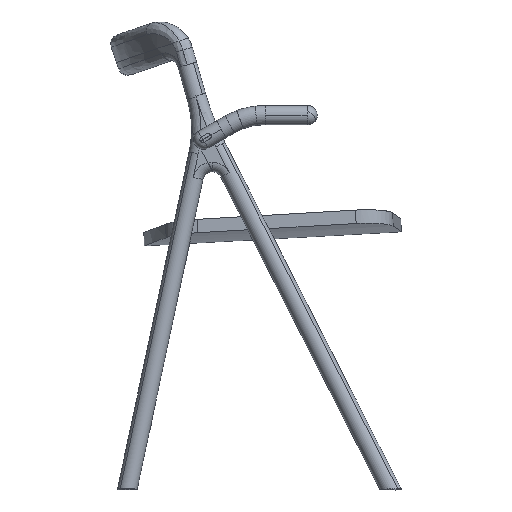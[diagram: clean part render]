
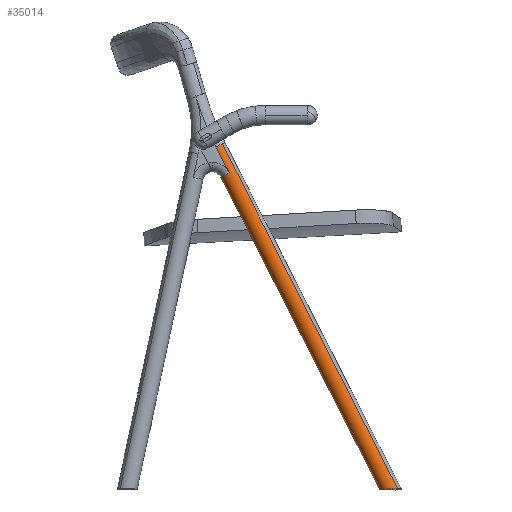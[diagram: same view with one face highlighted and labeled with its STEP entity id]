
A CAD part, left-side view. The second image highlights one B-rep face of the part: STEP entity #35014.
In plain terms, the highlighted cylindrical face has radius 16 mm (diameter 32 mm), a partial arc.
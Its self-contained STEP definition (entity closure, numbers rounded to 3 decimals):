
#3 = ORIENTED_EDGE ( 'NONE', *, *, #27408, .T. ) ;
#238 = CARTESIAN_POINT ( 'NONE',  ( 35163.519, 90911.886, -1926.949 ) ) ;
#442 = CARTESIAN_POINT ( 'NONE',  ( 35163.963, 90913.556, -1927.036 ) ) ;
#653 = CARTESIAN_POINT ( 'NONE',  ( 35166.353, 90897.199, -1926.192 ) ) ;
#785 = CARTESIAN_POINT ( 'NONE',  ( 35172.512, 91176.039, -1401.323 ) ) ;
#845 = CARTESIAN_POINT ( 'NONE',  ( 35190.897, 90919.882, -1927.413 ) ) ;
#985 = DIRECTION ( 'NONE',  ( 0.016, 0.454, 0.891 ) ) ;
#1143 = CARTESIAN_POINT ( 'NONE',  ( 35166.205, 90995.44, -1755.984 ) ) ;
#1336 = CARTESIAN_POINT ( 'NONE',  ( 35186.73, 91124.731, -1500.985 ) ) ;
#1380 = EDGE_LOOP ( 'NONE', ( #4444, #39783, #33194, #9488, #38366, #33450, #12090, #7397, #36415, #4933, #3, #16222 ) ) ;
#1541 = EDGE_CURVE ( 'NONE', #35624, #39562, #26585, .T. ) ;
#2729 = CARTESIAN_POINT ( 'NONE',  ( 35198.388, 91134.41, -1506.122 ) ) ;
#2740 = DIRECTION ( 'NONE',  ( 0.999, -0.035, 0. ) ) ;
#3344 = CARTESIAN_POINT ( 'NONE',  ( 35185.716, 91095.693, -1558.01 ) ) ;
#3391 = CARTESIAN_POINT ( 'NONE',  ( 35166.143, 90918.145, -1927.278 ) ) ;
#3598 = CARTESIAN_POINT ( 'NONE',  ( 35179.769, 90925.398, -1927.679 ) ) ;
#3722 = CARTESIAN_POINT ( 'NONE',  ( 35193.854, 91004.561, -1761.12 ) ) ;
#3792 = CARTESIAN_POINT ( 'NONE',  ( 35179.769, 90925.398, -1927.679 ) ) ;
#4444 = ORIENTED_EDGE ( 'NONE', *, *, #21074, .F. ) ;
#4933 = ORIENTED_EDGE ( 'NONE', *, *, #37418, .F. ) ;
#5356 = DIRECTION ( 'NONE',  ( -0.729, -0.605, 0.321 ) ) ;
#5542 = CARTESIAN_POINT ( 'NONE',  ( 35182.774, 90925.058, -1927.667 ) ) ;
#5933 = CARTESIAN_POINT ( 'NONE',  ( 35177.604, 91187.589, -1353.398 ) ) ;
#7261 = VERTEX_POINT ( 'NONE', #37432 ) ;
#7397 = ORIENTED_EDGE ( 'NONE', *, *, #15760, .F. ) ;
#8428 = B_SPLINE_CURVE_WITH_KNOTS ( 'NONE', 3,
 ( #40747, #24103, #5542, #21160, #30638, #12076, #40541, #21578 ),
 .UNSPECIFIED., .F., .F.,
 ( 4, 2, 2, 4 ),
 ( 0., 0.36, 0.753, 1. ),
 .UNSPECIFIED. ) ;
#8513 = FACE_OUTER_BOUND ( 'NONE', #1380, .T. ) ;
#8538 = DIRECTION ( 'NONE',  ( 0.016, 0.454, 0.891 ) ) ;
#8728 = CARTESIAN_POINT ( 'NONE',  ( 35189., 91189.728, -1408.587 ) ) ;
#9295 = AXIS2_PLACEMENT_3D ( 'NONE', #23923, #11065, #5356 ) ;
#9488 = ORIENTED_EDGE ( 'NONE', *, *, #36872, .T. ) ;
#10555 = CARTESIAN_POINT ( 'NONE',  ( 35163.109, 90906.745, -1926.681 ) ) ;
#10719 = DIRECTION ( 'NONE',  ( 0.999, -0.035, 0. ) ) ;
#11065 = DIRECTION ( 'NONE',  ( 0.016, 0.454, 0.891 ) ) ;
#11158 = CIRCLE ( 'NONE', #40761, 16. ) ;
#11209 = VERTEX_POINT ( 'NONE', #8728 ) ;
#11297 = LINE ( 'NONE', #14464, #33970 ) ;
#12019 = VERTEX_POINT ( 'NONE', #2729 ) ;
#12076 = CARTESIAN_POINT ( 'NONE',  ( 35189.416, 90921.457, -1927.492 ) ) ;
#12090 = ORIENTED_EDGE ( 'NONE', *, *, #14015, .F. ) ;
#12637 = EDGE_CURVE ( 'NONE', #38677, #31127, #25266, .T. ) ;
#13084 = CARTESIAN_POINT ( 'NONE',  ( 35176.621, 90925.253, -1927.666 ) ) ;
#13297 = CARTESIAN_POINT ( 'NONE',  ( 35168.227, 90920.73, -1927.416 ) ) ;
#13510 = CARTESIAN_POINT ( 'NONE',  ( 35167.42, 90895.946, -1926.129 ) ) ;
#14015 = EDGE_CURVE ( 'NONE', #11209, #33083, #11158, .T. ) ;
#14095 = DIRECTION ( 'NONE',  ( 0.016, 0.454, 0.891 ) ) ;
#14464 = CARTESIAN_POINT ( 'NONE',  ( 35193.854, 91004.561, -1761.12 ) ) ;
#15260 = EDGE_CURVE ( 'NONE', #15929, #31630, #8428, .T. ) ;
#15760 = EDGE_CURVE ( 'NONE', #7261, #11209, #15925, .T. ) ;
#15925 = CIRCLE ( 'NONE', #40841, 16. ) ;
#15929 = VERTEX_POINT ( 'NONE', #3792 ) ;
#16041 = VECTOR ( 'NONE', #39523, 1000. ) ;
#16141 = CARTESIAN_POINT ( 'NONE',  ( 35187.447, 91145.27, -1495.892 ) ) ;
#16222 = ORIENTED_EDGE ( 'NONE', *, *, #1541, .T. ) ;
#16258 = CARTESIAN_POINT ( 'NONE',  ( 35172.121, 90923.67, -1927.575 ) ) ;
#16576 = EDGE_CURVE ( 'NONE', #12019, #7261, #26911, .T. ) ;
#16625 = VECTOR ( 'NONE', #23948, 1000. ) ;
#17189 = AXIS2_PLACEMENT_3D ( 'NONE', #30111, #14095, #26947 ) ;
#18891 = EDGE_CURVE ( 'NONE', #38677, #33083, #40535, .T. ) ;
#19848 = CARTESIAN_POINT ( 'NONE',  ( 35163.092, 90908.481, -1926.771 ) ) ;
#20752 = DIRECTION ( 'NONE',  ( -0.016, -0.454, -0.891 ) ) ;
#21074 = EDGE_CURVE ( 'NONE', #31630, #39562, #11297, .T. ) ;
#21160 = CARTESIAN_POINT ( 'NONE',  ( 35185.768, 90923.991, -1927.617 ) ) ;
#21578 = CARTESIAN_POINT ( 'NONE',  ( 35190.897, 90919.882, -1927.413 ) ) ;
#21871 = AXIS2_PLACEMENT_3D ( 'NONE', #3344, #23369, #10719 ) ;
#21954 = CARTESIAN_POINT ( 'NONE',  ( 35188.502, 91175.48, -1401.323 ) ) ;
#22158 = DIRECTION ( 'NONE',  ( 0.031, 0.89, -0.454 ) ) ;
#23369 = DIRECTION ( 'NONE',  ( -0.016, -0.454, -0.891 ) ) ;
#23923 = CARTESIAN_POINT ( 'NONE',  ( 35182.195, 90994.881, -1755.984 ) ) ;
#23948 = DIRECTION ( 'NONE',  ( 0.016, 0.454, 0.891 ) ) ;
#24103 = CARTESIAN_POINT ( 'NONE',  ( 35181.276, 90925.345, -1927.679 ) ) ;
#24125 = CYLINDRICAL_SURFACE ( 'NONE', #9295, 16. ) ;
#25266 = CIRCLE ( 'NONE', #17189, 16. ) ;
#25944 = CARTESIAN_POINT ( 'NONE',  ( 35165.275, 90916.686, -1927.201 ) ) ;
#26365 = CARTESIAN_POINT ( 'NONE',  ( 35164.082, 90901.704, -1926.422 ) ) ;
#26531 = CARTESIAN_POINT ( 'NONE',  ( 35197.374, 91105.372, -1563.146 ) ) ;
#26585 = CIRCLE ( 'NONE', #21871, 16. ) ;
#26670 = LINE ( 'NONE', #16141, #16041 ) ;
#26911 = LINE ( 'NONE', #3722, #16625 ) ;
#26947 = DIRECTION ( 'NONE',  ( -0.999, 0.035, 0. ) ) ;
#27408 = EDGE_CURVE ( 'NONE', #40204, #35624, #26670, .T. ) ;
#27739 = DIRECTION ( 'NONE',  ( 0.031, 0.89, -0.454 ) ) ;
#28110 = VECTOR ( 'NONE', #41351, 1000. ) ;
#28910 = CARTESIAN_POINT ( 'NONE',  ( 35170.537, 90985.202, -1750.848 ) ) ;
#29116 = CARTESIAN_POINT ( 'NONE',  ( 35173.581, 90924.361, -1927.614 ) ) ;
#29531 = CARTESIAN_POINT ( 'NONE',  ( 35169.444, 90921.853, -1927.476 ) ) ;
#30111 = CARTESIAN_POINT ( 'NONE',  ( 35189.263, 91197.269, -1358.534 ) ) ;
#30638 = CARTESIAN_POINT ( 'NONE',  ( 35187.249, 90923.168, -1927.577 ) ) ;
#31077 = AXIS2_PLACEMENT_3D ( 'NONE', #1336, #33591, #2740 ) ;
#31127 = VERTEX_POINT ( 'NONE', #5933 ) ;
#31630 = VERTEX_POINT ( 'NONE', #845 ) ;
#32268 = DIRECTION ( 'NONE',  ( 0.016, 0.454, 0.891 ) ) ;
#32363 = CARTESIAN_POINT ( 'NONE',  ( 35187.227, 91138.978, -1508.249 ) ) ;
#32612 = CARTESIAN_POINT ( 'NONE',  ( 35173.273, 91197.827, -1358.534 ) ) ;
#33083 = VERTEX_POINT ( 'NONE', #785 ) ;
#33097 = CIRCLE ( 'NONE', #31077, 16. ) ;
#33194 = ORIENTED_EDGE ( 'NONE', *, *, #37292, .F. ) ;
#33450 = ORIENTED_EDGE ( 'NONE', *, *, #18891, .T. ) ;
#33591 = DIRECTION ( 'NONE',  ( -0.016, -0.454, -0.891 ) ) ;
#33970 = VECTOR ( 'NONE', #985, 1000. ) ;
#34650 = CARTESIAN_POINT ( 'NONE',  ( 35167.42, 90895.946, -1926.129 ) ) ;
#35014 = ADVANCED_FACE ( 'NONE', ( #8513 ), #24125, .T. ) ;
#35241 = LINE ( 'NONE', #28910, #28110 ) ;
#35624 = VERTEX_POINT ( 'NONE', #38844 ) ;
#35856 = CARTESIAN_POINT ( 'NONE',  ( 35165.455, 90898.625, -1926.264 ) ) ;
#36415 = ORIENTED_EDGE ( 'NONE', *, *, #16576, .F. ) ;
#36872 = EDGE_CURVE ( 'NONE', #40722, #31127, #35241, .T. ) ;
#37292 = EDGE_CURVE ( 'NONE', #40722, #15929, #39443, .T. ) ;
#37418 = EDGE_CURVE ( 'NONE', #40204, #12019, #33097, .T. ) ;
#37432 = CARTESIAN_POINT ( 'NONE',  ( 35200.161, 91185.16, -1406.459 ) ) ;
#38366 = ORIENTED_EDGE ( 'NONE', *, *, #12637, .F. ) ;
#38677 = VERTEX_POINT ( 'NONE', #32612 ) ;
#38800 = CARTESIAN_POINT ( 'NONE',  ( 35178.199, 90925.453, -1927.679 ) ) ;
#38844 = CARTESIAN_POINT ( 'NONE',  ( 35186.213, 91109.94, -1565.273 ) ) ;
#39217 = CARTESIAN_POINT ( 'NONE',  ( 35163.604, 90903.357, -1926.506 ) ) ;
#39443 = B_SPLINE_CURVE_WITH_KNOTS ( 'NONE', 3,
 ( #13510, #653, #35856, #26365, #39217, #10555, #19848, #238, #442, #25944, #3391, #13297, #29531, #16258, #29116, #13084, #38800, #3598 ),
 .UNSPECIFIED., .F., .F.,
 ( 4, 2, 2, 2, 2, 2, 2, 2, 4 ),
 ( 0., 0.125, 0.25, 0.375, 0.5, 0.625, 0.75, 0.875, 1. ),
 .UNSPECIFIED. ) ;
#39523 = DIRECTION ( 'NONE',  ( -0.016, -0.454, -0.891 ) ) ;
#39562 = VERTEX_POINT ( 'NONE', #26531 ) ;
#39783 = ORIENTED_EDGE ( 'NONE', *, *, #15260, .F. ) ;
#39854 = VECTOR ( 'NONE', #20752, 1000. ) ;
#40204 = VERTEX_POINT ( 'NONE', #32363 ) ;
#40535 = LINE ( 'NONE', #1143, #39854 ) ;
#40541 = CARTESIAN_POINT ( 'NONE',  ( 35190.193, 90920.707, -1927.455 ) ) ;
#40722 = VERTEX_POINT ( 'NONE', #34650 ) ;
#40747 = CARTESIAN_POINT ( 'NONE',  ( 35179.769, 90925.398, -1927.679 ) ) ;
#40761 = AXIS2_PLACEMENT_3D ( 'NONE', #41006, #8538, #27739 ) ;
#40841 = AXIS2_PLACEMENT_3D ( 'NONE', #21954, #32268, #22158 ) ;
#41006 = CARTESIAN_POINT ( 'NONE',  ( 35188.502, 91175.48, -1401.323 ) ) ;
#41351 = DIRECTION ( 'NONE',  ( 0.016, 0.454, 0.891 ) ) ;
